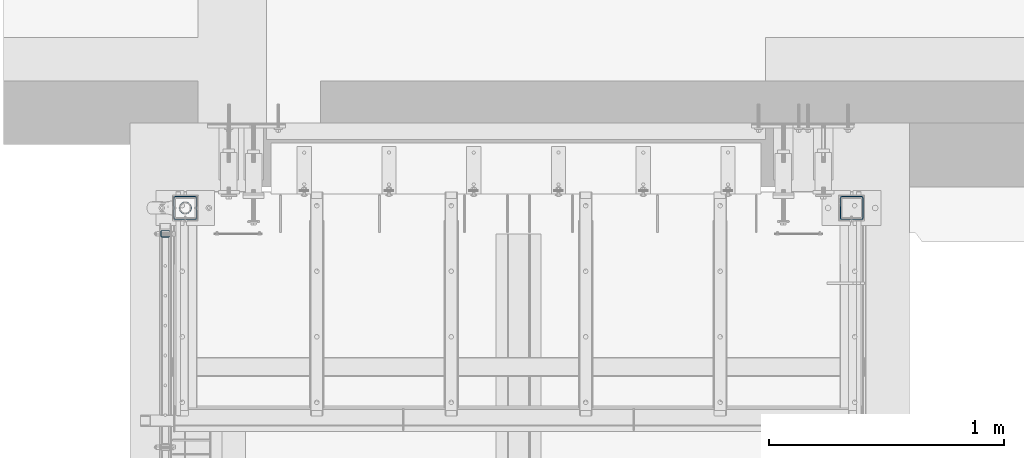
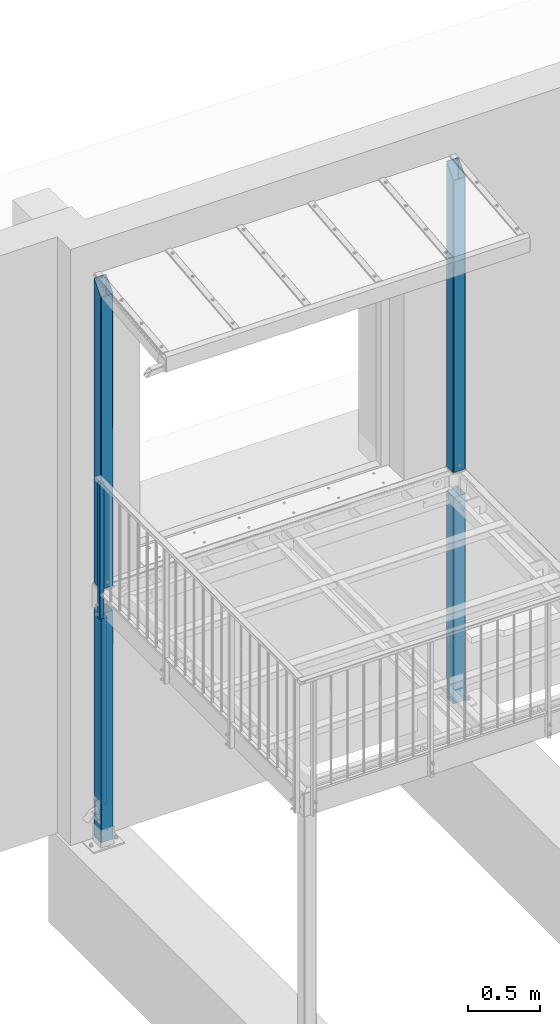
# One storey, part 2 of 116: 6 columns, 19 openings.
"""IFC2X3 building model written with IfcOpenShell, lengths in millimetres."""

from ifc_helpers import new_model, entity, si_unit, converted_unit, point, frame, frame_2d, origin, origin_with_axes, origin_2d, origin_2d_with_axis, place, context, project, spatial, circle_curve, line_curve, trimmed, segment, composite_curve, hollow_rectangle, circle, hollow_circle, outline, extrude, clip, halfspace, material, element, save


model = new_model("IFC2X3")

# Units and contexts
model_context = context("Model", 3, precision=1e-09, world=origin_with_axes())
ifc_project = project(units=[si_unit("LENGTHUNIT", "METRE", prefix="MILLI"), si_unit("AREAUNIT", "SQUARE_METRE"), si_unit("VOLUMEUNIT", "CUBIC_METRE"), converted_unit("PLANEANGLEUNIT", "DEGREE", entity("IfcPlaneAngleMeasure", 0.01745329), si_unit("PLANEANGLEUNIT", "RADIAN"), dimensions=[0, 0, 0, 0, 0, 0, 0])], contexts=[model_context])

# Site, building, storey
site_placement = place(None, origin_with_axes())
site = spatial("IfcSite", under=ifc_project, at=site_placement, Name="Site", CompositionType="ELEMENT")
building_placement = place(site_placement, origin_with_axes())
building = spatial("IfcBuilding", under=site, at=building_placement, Name="Struktur 1", CompositionType="ELEMENT")
storey_placement = place(building_placement, origin_with_axes())
storey = spatial("IfcBuildingStorey", under=building, at=storey_placement, Name="Default Storey", CompositionType="ELEMENT", Elevation=0.0)

# Column, opening
ifc_material_1 = material(Name="S235JR")
column_1_placement = place(None, frame((58167.049134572, 11962.358883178, -1959.0), z_axis=(0.0, 0.0, -1.0), x_axis=(0.0, -1.0, 0.0)))
column_1 = element("IfcColumn", 1, at=column_1_placement, inside=storey, material=ifc_material_1, Name="-", ObjectType="-", context=model_context, shape_type="SweptSolid", body=[
    extrude(hollow_rectangle(XDim=100.0, YDim=100.0, WallThickness=4.0, InnerFilletRadius=4.0, OuterFilletRadius=8.0, at=origin_2d()), origin(), (0.0, 0.0, -1.0), 1754.0),
])
opening_1_placement = place(column_1_placement, frame((45.5, -7.001, -1704.0), z_axis=(-1.0, 0.0, 0.0), x_axis=(0.0, -1.0, 0.0)))
element("IfcOpeningElement", 2, at=opening_1_placement, cuts=column_1, ObjectType="Opening", context=model_context, shape_type="SweptSolid", body=[
    extrude(circle(Radius=7.001, at=frame_2d((-7.001, 0.0), x_axis=(1.0, 0.0))), origin(), (0.0, 0.0, -1.0), 5.0),
])

# Column, openings
column_2_placement = place(None, frame((55337.049134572, 11962.358883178, -2147.0), z_axis=(0.0, 0.0, 1.0), x_axis=(0.0, -1.0, 0.0)))
column_2 = element("IfcColumn", 3, at=column_2_placement, inside=storey, material=ifc_material_1, Name="-", ObjectType="-", context=model_context, shape_type="SweptSolid", body=[
    extrude(hollow_rectangle(XDim=100.0, YDim=100.0, WallThickness=4.0, InnerFilletRadius=4.0, OuterFilletRadius=8.0, at=origin_2d()), origin(), (0.0, 0.0, 1.0), 1942.0),
])
opening_2_placement = place(column_2_placement, frame((35.001, 150.1, 1689.499), z_axis=(0.0, 1.0, 0.0), x_axis=(-0.707106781, 0.0, -0.707106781)))
element("IfcOpeningElement", 4, at=opening_2_placement, cuts=column_2, ObjectType="Opening", context=model_context, shape_type="SweptSolid", body=[
    extrude(outline(composite_curve([segment(trimmed(circle_curve(frame_2d((7.071067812, 7.071067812), x_axis=(1.0, 0.0)), 10.0), [point((0.0, 0.0))], [point((14.142135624, 0.0))], True, "CARTESIAN"), True, "CONTINUOUS"), segment(trimmed(line_curve((14.142135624, 0.0), (0.707106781, 0.707106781), 50.002), [point((14.142135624, 0.0))], [point((49.498888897, 35.356753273))], True, "CARTESIAN"), True, "CONTINUOUS"), segment(trimmed(circle_curve(frame_2d((42.427821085, 42.427821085), x_axis=(1.0, 0.0)), 10.0), [point((49.498888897, 35.356753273))], [point((49.498888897, 49.498888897))], True, "CARTESIAN"), True, "CONTINUOUS"), segment(trimmed(line_curve((49.498888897, 49.498888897), (-0.707106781, 0.707106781), 125.002), [point((49.498888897, 49.498888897))], [point((-38.890872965, 137.888650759))], True, "CARTESIAN"), True, "CONTINUOUS"), segment(trimmed(circle_curve(frame_2d((-45.961940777, 130.817582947), x_axis=(1.0, 0.0)), 10.0), [point((-38.890872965, 137.888650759))], [point((-53.033008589, 137.888650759))], True, "CARTESIAN"), True, "CONTINUOUS"), segment(trimmed(line_curve((-53.033008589, 137.888650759), (-0.707106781, -0.707106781), 50.002), [point((-53.033008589, 137.888650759))], [point((-88.389761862, 102.531897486))], True, "CARTESIAN"), True, "CONTINUOUS"), segment(trimmed(circle_curve(frame_2d((-81.31869405, 95.460829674), x_axis=(1.0, 0.0)), 10.0), [point((-88.389761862, 102.531897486))], [point((-88.389761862, 88.389761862))], True, "CARTESIAN"), True, "CONTINUOUS"), segment(trimmed(line_curve((-88.389761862, 88.389761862), (0.707106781, -0.707106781), 125.002), [point((-88.389761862, 88.389761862))], [point((0.0, 0.0))], True, "CARTESIAN"), True, "CONTINUOUS")], self_intersect=False)), origin(), (0.0, 0.0, -1.0), 170.1),
])
opening_3_placement = place(column_2_placement, frame((0.0, 45.5, 1832.0), z_axis=(0.0, 1.0, 0.0), x_axis=(-1.0, 0.0, 0.0)))
element("IfcOpeningElement", 5, at=opening_3_placement, cuts=column_2, ObjectType="Opening", context=model_context, shape_type="SweptSolid", body=[
    extrude(circle(Radius=2.751, at=frame_2d((0.0, 10.0), x_axis=(1.0, 0.0))), origin(), (0.0, 0.0, 1.0), 5.0),
])
opening_4_placement = place(column_2_placement, frame((0.0, 45.5, 1832.0), z_axis=(0.0, 1.0, 0.0), x_axis=(-1.0, 0.0, 0.0)))
element("IfcOpeningElement", 6, at=opening_4_placement, cuts=column_2, ObjectType="Opening", context=model_context, shape_type="SweptSolid", body=[
    extrude(circle(Radius=2.751, at=frame_2d((0.0, -170.0), x_axis=(1.0, 0.0))), origin(), (0.0, 0.0, 1.0), 5.0),
])
opening_5_placement = place(column_2_placement, frame((2.751, -45.5, 340.0), z_axis=(0.0, 1.0, 0.0), x_axis=(-1.0, 0.0, 0.0)))
element("IfcOpeningElement", 7, at=opening_5_placement, cuts=column_2, ObjectType="Opening", context=model_context, shape_type="SweptSolid", body=[
    extrude(circle(Radius=2.751, at=frame_2d((2.751, 0.0), x_axis=(1.0, 0.0))), origin(), (0.0, 0.0, -1.0), 5.0),
])
opening_6_placement = place(column_2_placement, frame((2.751, -45.5, 160.0), z_axis=(0.0, 1.0, 0.0), x_axis=(-1.0, 0.0, 0.0)))
element("IfcOpeningElement", 8, at=opening_6_placement, cuts=column_2, ObjectType="Opening", context=model_context, shape_type="SweptSolid", body=[
    extrude(circle(Radius=2.751, at=frame_2d((2.751, 0.0), x_axis=(1.0, 0.0))), origin(), (0.0, 0.0, -1.0), 5.0),
])
opening_7_placement = place(column_2_placement, frame((0.0, -150.1, 488.0), z_axis=(0.0, 1.0, 0.0), x_axis=(-1.0, 0.0, 0.0)))
element("IfcOpeningElement", 9, at=opening_7_placement, cuts=column_2, ObjectType="Opening", context=model_context, shape_type="SweptSolid", body=[
    extrude(outline(composite_curve([segment(trimmed(circle_curve(frame_2d((-25.001, -300.501), x_axis=(1.0, 0.0)), 10.0), [point((-35.001, -300.501))], [point((-25.001, -310.501))], True, "CARTESIAN"), True, "CONTINUOUS"), segment(trimmed(line_curve((-25.001, -310.501), (1.0, 0.0), 50.002), [point((-25.001, -310.501))], [point((25.001, -310.501))], True, "CARTESIAN"), True, "CONTINUOUS"), segment(trimmed(circle_curve(frame_2d((25.001, -300.501), x_axis=(1.0, 0.0)), 10.0), [point((25.001, -310.501))], [point((35.001, -300.501))], True, "CARTESIAN"), True, "CONTINUOUS"), segment(trimmed(line_curve((35.001, -300.501), (0.0, 1.0), 125.002), [point((35.001, -300.501))], [point((35.001, -175.499))], True, "CARTESIAN"), True, "CONTINUOUS"), segment(trimmed(circle_curve(frame_2d((25.001, -175.499), x_axis=(1.0, 0.0)), 10.0), [point((35.001, -175.499))], [point((25.001, -165.499))], True, "CARTESIAN"), True, "CONTINUOUS"), segment(trimmed(line_curve((25.001, -165.499), (-1.0, 0.0), 50.002), [point((25.001, -165.499))], [point((-25.001, -165.499))], True, "CARTESIAN"), True, "CONTINUOUS"), segment(trimmed(circle_curve(frame_2d((-25.001, -175.499), x_axis=(1.0, 0.0)), 10.0), [point((-25.001, -165.499))], [point((-35.001, -175.499))], True, "CARTESIAN"), True, "CONTINUOUS"), segment(trimmed(line_curve((-35.001, -175.499), (0.0, -1.0), 125.002), [point((-35.001, -175.499))], [point((-35.001, -300.501))], True, "CARTESIAN"), True, "CONTINUOUS")], self_intersect=False)), origin(), (0.0, 0.0, 1.0), 170.1),
])
opening_8_placement = place(column_2_placement, frame((45.5, 0.0, 1892.0), z_axis=(1.0, 0.0, 0.0), x_axis=(0.0, 1.0, 0.0)))
element("IfcOpeningElement", 10, at=opening_8_placement, cuts=column_2, ObjectType="Opening", context=model_context, shape_type="SweptSolid", body=[
    extrude(circle(Radius=7.001, at=origin_2d_with_axis()), origin(), (0.0, 0.0, 1.0), 5.0),
])

# Column
ifc_material_2 = material(Name="A500 GR.C")
column_3_placement = place(None, frame((55337.049134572, 11962.358887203, -270.160652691), z_axis=(0.0, 0.0, 1.0), x_axis=(1.0, 0.0, 0.0)))
element("IfcColumn", 11, at=column_3_placement, inside=storey, material=ifc_material_2, Name="-", ObjectType="-", context=model_context, shape_type="SweptSolid", body=[
    extrude(hollow_circle(Radius=25.0, WallThickness=2.5, at=origin_2d()), origin(), (0.0, 0.0, -1.0), 1581.839347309),
])

# Column, openings
column_4_placement = place(None, frame((55337.049134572, 11962.358883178, 2645.883820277), z_axis=(0.0, 0.0, 1.0), x_axis=(0.0, -1.0, 0.0)))
column_4 = element("IfcColumn", 12, at=column_4_placement, inside=storey, material=ifc_material_1, Name="-", ObjectType="-", context=model_context, shape_type="Clipping", body=[
    clip(extrude(hollow_rectangle(XDim=100.0, YDim=100.0, WallThickness=4.0, InnerFilletRadius=4.0, OuterFilletRadius=8.0, at=origin_2d()), origin(), (0.0, 0.0, -1.0), 2640.883820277), halfspace(frame((6618.382172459, -55337.049134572, -7457.622063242), z_axis=(-0.743144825, 0.0, -0.669130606), x_axis=(0.0, -1.0, 0.0)), True)),
])
opening_9_placement = place(column_4_placement, frame((-45.5, 0.0, -235.679502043), z_axis=(-1.0, 0.0, 0.0), x_axis=(0.0, 0.0, 1.0)))
element("IfcOpeningElement", 13, at=opening_9_placement, cuts=column_4, ObjectType="Opening", context=model_context, shape_type="SweptSolid", body=[
    extrude(circle(Radius=6.001, at=frame_2d((169.047471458, 35.0), x_axis=(1.0, 0.0))), origin(), (0.0, 0.0, 1.0), 5.0),
])
opening_10_placement = place(column_4_placement, frame((-45.5, 0.0, -235.679502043), z_axis=(-1.0, 0.0, 0.0), x_axis=(0.0, 0.0, 1.0)))
element("IfcOpeningElement", 14, at=opening_10_placement, cuts=column_4, ObjectType="Opening", context=model_context, shape_type="SweptSolid", body=[
    extrude(circle(Radius=6.001, at=frame_2d((169.047471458, -35.0), x_axis=(1.0, 0.0))), origin(), (0.0, 0.0, 1.0), 5.0),
])
opening_11_placement = place(column_4_placement, frame((45.5, -7.001, -2590.883820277), z_axis=(-1.0, 0.0, 0.0), x_axis=(0.0, -1.0, 0.0)))
element("IfcOpeningElement", 15, at=opening_11_placement, cuts=column_4, ObjectType="Opening", context=model_context, shape_type="SweptSolid", body=[
    extrude(circle(Radius=7.001, at=frame_2d((-7.001, 0.0), x_axis=(1.0, 0.0))), origin(), (0.0, 0.0, -1.0), 5.0),
])

column_5_placement = place(None, frame((58167.049134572, 11962.358883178, 2645.883820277), z_axis=(0.0, 0.0, -1.0), x_axis=(0.0, -1.0, 0.0)))
column_5 = element("IfcColumn", 16, at=column_5_placement, inside=storey, material=ifc_material_1, Name="-", ObjectType="-", context=model_context, shape_type="Clipping", body=[
    clip(extrude(hollow_rectangle(XDim=100.0, YDim=100.0, WallThickness=4.0, InnerFilletRadius=4.0, OuterFilletRadius=8.0, at=origin_2d()), origin(), (0.0, 0.0, 1.0), 2640.883820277), halfspace(frame((6618.382172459, 58167.049134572, 7457.622063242), z_axis=(-0.743144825, 0.0, 0.669130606), x_axis=(0.0, 1.0, 0.0)), True)),
])
opening_12_placement = place(column_5_placement, frame((-45.5, 35.0, 72.633030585), z_axis=(1.0, 0.0, 0.0), x_axis=(0.0, 1.0, 0.0)))
element("IfcOpeningElement", 17, at=opening_12_placement, cuts=column_5, ObjectType="Opening", context=model_context, shape_type="SweptSolid", body=[
    extrude(circle(Radius=6.001, at=frame_2d((0.0, -6.001), x_axis=(1.0, 0.0))), origin(), (0.0, 0.0, -1.0), 5.0),
])
opening_13_placement = place(column_5_placement, frame((-45.5, -35.0, 72.633030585), z_axis=(1.0, 0.0, 0.0), x_axis=(0.0, 1.0, 0.0)))
element("IfcOpeningElement", 18, at=opening_13_placement, cuts=column_5, ObjectType="Opening", context=model_context, shape_type="SweptSolid", body=[
    extrude(circle(Radius=6.001, at=frame_2d((0.0, -6.001), x_axis=(1.0, 0.0))), origin(), (0.0, 0.0, -1.0), 5.0),
])
opening_14_placement = place(column_5_placement, frame((45.5, 0.0, 2590.883820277), z_axis=(1.0, 0.0, 0.0), x_axis=(0.0, 1.0, 0.0)))
element("IfcOpeningElement", 19, at=opening_14_placement, cuts=column_5, ObjectType="Opening", context=model_context, shape_type="SweptSolid", body=[
    extrude(circle(Radius=7.001, at=origin_2d_with_axis()), origin(), (0.0, 0.0, 1.0), 5.0),
])

column_6_placement = place(None, frame((55252.049134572, 11852.358883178, -185.0), z_axis=(0.0, 0.0, -1.0), x_axis=(0.0, 1.0, 0.0)))
column_6 = element("IfcColumn", 20, at=column_6_placement, inside=storey, material=ifc_material_1, Name="-", ObjectType="-", context=model_context, shape_type="SweptSolid", body=[
    extrude(hollow_rectangle(XDim=30.0, YDim=40.0, WallThickness=3.0, InnerFilletRadius=3.0, OuterFilletRadius=6.0, at=origin_2d()), origin(), (0.0, 0.0, -1.0), 1150.0),
])
opening_15_placement = place(column_6_placement, frame((-11.5, 0.0, -210.0), z_axis=(-1.0, 0.0, 0.0), x_axis=(0.0, 1.0, 0.0)))
element("IfcOpeningElement", 21, at=opening_15_placement, cuts=column_6, ObjectType="Opening", context=model_context, shape_type="SweptSolid", body=[
    extrude(circle(Radius=5.001, at=origin_2d_with_axis()), origin(), (0.0, 0.0, 1.0), 4.0),
])
opening_16_placement = place(column_6_placement, frame((8.001, 16.5, -120.0), z_axis=(0.0, -1.0, 0.0), x_axis=(1.0, 0.0, 0.0)))
element("IfcOpeningElement", 22, at=opening_16_placement, cuts=column_6, ObjectType="Opening", context=model_context, shape_type="SweptSolid", body=[
    extrude(circle(Radius=8.001, at=frame_2d((-8.001, 0.0), x_axis=(1.0, 0.0))), origin(), (0.0, 0.0, -1.0), 4.0),
])
opening_17_placement = place(column_6_placement, frame((8.001, 16.5, -40.0), z_axis=(0.0, -1.0, 0.0), x_axis=(1.0, 0.0, 0.0)))
element("IfcOpeningElement", 23, at=opening_17_placement, cuts=column_6, ObjectType="Opening", context=model_context, shape_type="SweptSolid", body=[
    extrude(circle(Radius=8.001, at=frame_2d((-8.001, 0.0), x_axis=(1.0, 0.0))), origin(), (0.0, 0.0, -1.0), 4.0),
])
opening_18_placement = place(column_6_placement, frame((8.001, -20.5, -120.0), z_axis=(0.0, -1.0, 0.0), x_axis=(1.0, 0.0, 0.0)))
element("IfcOpeningElement", 24, at=opening_18_placement, cuts=column_6, ObjectType="Opening", context=model_context, shape_type="SweptSolid", body=[
    extrude(circle(Radius=8.001, at=frame_2d((-8.001, 0.0), x_axis=(1.0, 0.0))), origin(), (0.0, 0.0, -1.0), 4.0),
])
opening_19_placement = place(column_6_placement, frame((8.001, -20.5, -40.0), z_axis=(0.0, -1.0, 0.0), x_axis=(1.0, 0.0, 0.0)))
element("IfcOpeningElement", 25, at=opening_19_placement, cuts=column_6, ObjectType="Opening", context=model_context, shape_type="SweptSolid", body=[
    extrude(circle(Radius=8.001, at=frame_2d((-8.001, 0.0), x_axis=(1.0, 0.0))), origin(), (0.0, 0.0, -1.0), 4.0),
])

save(model, "model.ifc")
